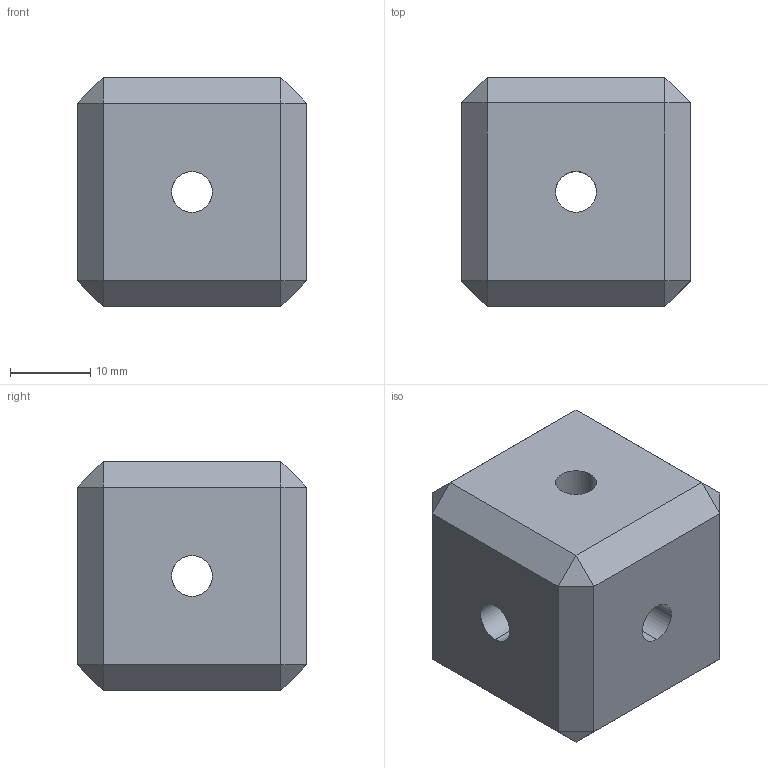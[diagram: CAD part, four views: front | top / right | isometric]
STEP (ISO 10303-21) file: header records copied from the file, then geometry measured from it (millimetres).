
FILE_DESCRIPTION (( 'STEP AP214' ), '1' );
FILE_NAME ('Modular Cube Connector.STEP', '2014-01-08T21:27:50', ( 'ydmin' ), ( 'Microsoft' ), 'SwSTEP 2.0', 'SolidWorks 2013', '' );
FILE_SCHEMA (( 'AUTOMOTIVE_DESIGN' ));
Length unit declared in the file: inch
Products named in the file (1): Modular Cube Connector
Bounding box: 28.57 x 28.57 x 28.57 mm (x, y, z)
Volume: 20208 mm3; surface area: 5262 mm2
Topology: 1 solids, 1 shells, 38 faces, 92 edges, 52 vertices
Faces by surface type: plane 26, cylinder 12
Entity records: 1618 total; most frequent: CARTESIAN_POINT 243, ORIENTED_EDGE 184, DIRECTION 162, EDGE_CURVE 92, VECTOR 60, LINE 60, VERTEX_POINT 52, AXIS2_PLACEMENT_3D 51
